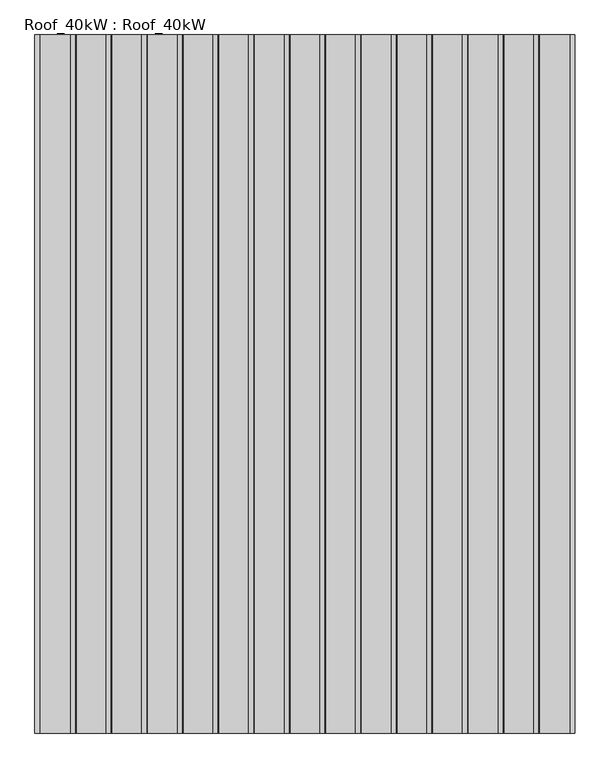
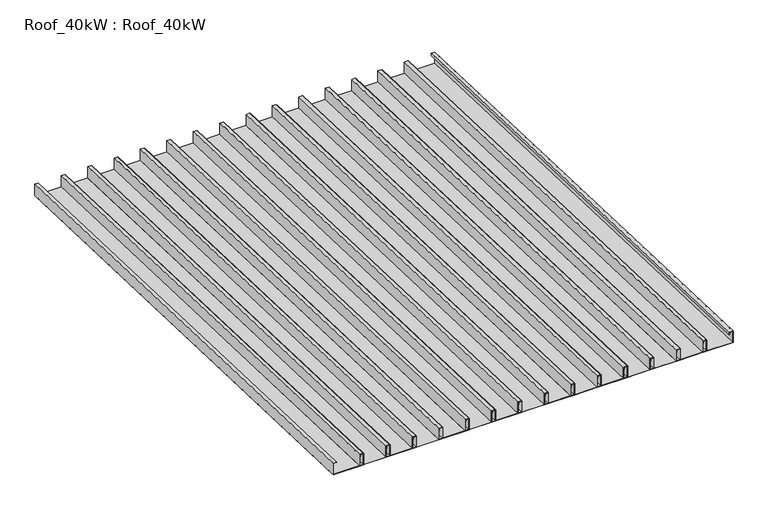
"""IFC4 building model written with IfcOpenShell, lengths in millimetres: beam geometry, Roof_40kW : Roof_40kW."""

from ifc_helpers import new_model, si_unit, origin, place, context, project, spatial, faceted_brep, source, transform, mapped, element, save


def roof_40kw_roof_40kw_301b227a(model_context):
    return source(origin(), model_context, "Body", "Brep", [
        faceted_brep([(-976.7135839, -12.227048, 3512.7230441), (-976.7135839, -12.227048, 3436.7693421), (-1178.0135838, -12.227048, 3436.7693421), (-1178.0135838, -12.227048, 3514.7218308), (-1157.0135757, -12.227048, 3514.7218308), (-1157.0135757, -12.227048, 3516.7206085), (-1180.0135889, -12.227048, 3516.7206085), (-1180.0135889, -12.227048, 3434.7705604), (-974.7135839, -12.227048, 3434.7705604), (-974.7135839, -12.227048, 3514.7218308), (-999.3135835, -12.227048, 3514.7218308), (-999.3135835, -12.227048, 3497.7321843), (-997.3135829, -12.227048, 3497.7321843), (-997.3135829, -12.227048, 3512.7230441), (-976.7135839, 3464.453761, 3391.3146758), (-997.3135829, 3464.453761, 3391.3146758), (-997.3135829, 3464.453761, 3376.3238198), (-999.3135835, 3464.453761, 3376.3238198), (-999.3135835, 3464.453761, 3393.3134574), (-974.7135786, 3464.453761, 3393.3134574), (-974.7135786, 3464.453761, 3313.3621913), (-1180.0135839, 3464.453761, 3313.3621913), (-1180.0135839, 3464.453761, 3395.312244), (-1157.0135839, 3464.453761, 3395.312244), (-1157.0135839, 3464.453761, 3393.3134574), (-1178.0135839, 3464.453761, 3393.3134574), (-1178.0135839, 3464.453761, 3315.3609776), (-976.7135839, 3464.453761, 3315.3609776)], [[[0, 1, 2, 3, 4, 5, 6, 7, 8, 9, 10, 11, 12, 13]], [[14, 15, 16, 17, 18, 19, 20, 21, 22, 23, 24, 25, 26, 27]], [[14, 27, 1, 0]], [[27, 26, 2, 1]], [[26, 25, 3, 2]], [[25, 24, 4, 3]], [[24, 23, 5, 4]], [[23, 22, 6, 5]], [[22, 21, 7, 6]], [[21, 20, 8, 7]], [[20, 19, 9, 8]], [[19, 18, 10, 9]], [[18, 17, 11, 10]], [[17, 16, 12, 11]], [[16, 15, 13, 12]], [[15, 14, 0, 13]]]),
        faceted_brep([(-1154.3303469, -12.227048, 3512.7230441), (-1154.3303469, -12.227048, 3436.7693421), (-1355.6303468, -12.227048, 3436.7693421), (-1355.6303468, -12.227048, 3514.7218308), (-1334.6303387, -12.227048, 3514.7218308), (-1334.6303387, -12.227048, 3516.7206085), (-1357.6303519, -12.227048, 3516.7206085), (-1357.6303519, -12.227048, 3434.7705604), (-1152.3303469, -12.227048, 3434.7705604), (-1152.3303469, -12.227048, 3514.7218308), (-1176.9303465, -12.227048, 3514.7218308), (-1176.9303465, -12.227048, 3497.7321843), (-1174.9303459, -12.227048, 3497.7321843), (-1174.9303459, -12.227048, 3512.7230441), (-1154.3303469, 3464.453761, 3391.3146758), (-1174.9303459, 3464.453761, 3391.3146758), (-1174.9303459, 3464.453761, 3376.3238198), (-1176.9303465, 3464.453761, 3376.3238198), (-1176.9303465, 3464.453761, 3393.3134574), (-1152.3303416, 3464.453761, 3393.3134574), (-1152.3303416, 3464.453761, 3313.3621913), (-1357.6303469, 3464.453761, 3313.3621913), (-1357.6303469, 3464.453761, 3395.312244), (-1334.6303469, 3464.453761, 3395.312244), (-1334.6303469, 3464.453761, 3393.3134574), (-1355.6303469, 3464.453761, 3393.3134574), (-1355.6303469, 3464.453761, 3315.3609776), (-1154.3303469, 3464.453761, 3315.3609776)], [[[0, 1, 2, 3, 4, 5, 6, 7, 8, 9, 10, 11, 12, 13]], [[14, 15, 16, 17, 18, 19, 20, 21, 22, 23, 24, 25, 26, 27]], [[14, 27, 1, 0]], [[27, 26, 2, 1]], [[26, 25, 3, 2]], [[25, 24, 4, 3]], [[24, 23, 5, 4]], [[23, 22, 6, 5]], [[22, 21, 7, 6]], [[21, 20, 8, 7]], [[20, 19, 9, 8]], [[19, 18, 10, 9]], [[18, 17, 11, 10]], [[17, 16, 12, 11]], [[16, 15, 13, 12]], [[15, 14, 0, 13]]]),
        faceted_brep([(-1331.9471099, -12.227048, 3512.7230441), (-1331.9471099, -12.227048, 3436.7693421), (-1533.2471098, -12.227048, 3436.7693421), (-1533.2471098, -12.227048, 3514.7218308), (-1512.2471017, -12.227048, 3514.7218308), (-1512.2471017, -12.227048, 3516.7206085), (-1535.2471149, -12.227048, 3516.7206085), (-1535.2471149, -12.227048, 3434.7705604), (-1329.9471099, -12.227048, 3434.7705604), (-1329.9471099, -12.227048, 3514.7218308), (-1354.5471095, -12.227048, 3514.7218308), (-1354.5471095, -12.227048, 3497.7321843), (-1352.5471089, -12.227048, 3497.7321843), (-1352.5471089, -12.227048, 3512.7230441), (-1331.9471099, 3464.453761, 3391.3146758), (-1352.5471089, 3464.453761, 3391.3146758), (-1352.5471089, 3464.453761, 3376.3238198), (-1354.5471095, 3464.453761, 3376.3238198), (-1354.5471095, 3464.453761, 3393.3134574), (-1329.9471046, 3464.453761, 3393.3134574), (-1329.9471046, 3464.453761, 3313.3621913), (-1535.2471099, 3464.453761, 3313.3621913), (-1535.2471099, 3464.453761, 3395.312244), (-1512.2471099, 3464.453761, 3395.312244), (-1512.2471099, 3464.453761, 3393.3134574), (-1533.2471099, 3464.453761, 3393.3134574), (-1533.2471099, 3464.453761, 3315.3609776), (-1331.9471099, 3464.453761, 3315.3609776)], [[[0, 1, 2, 3, 4, 5, 6, 7, 8, 9, 10, 11, 12, 13]], [[14, 15, 16, 17, 18, 19, 20, 21, 22, 23, 24, 25, 26, 27]], [[14, 27, 1, 0]], [[27, 26, 2, 1]], [[26, 25, 3, 2]], [[25, 24, 4, 3]], [[24, 23, 5, 4]], [[23, 22, 6, 5]], [[22, 21, 7, 6]], [[21, 20, 8, 7]], [[20, 19, 9, 8]], [[19, 18, 10, 9]], [[18, 17, 11, 10]], [[17, 16, 12, 11]], [[16, 15, 13, 12]], [[15, 14, 0, 13]]]),
        faceted_brep([(-1509.5638729, -12.227048, 3512.7230441), (-1509.5638729, -12.227048, 3436.7693421), (-1710.8638728, -12.227048, 3436.7693421), (-1710.8638728, -12.227048, 3514.7218308), (-1689.8638647, -12.227048, 3514.7218308), (-1689.8638647, -12.227048, 3516.7206085), (-1712.8638779, -12.227048, 3516.7206085), (-1712.8638779, -12.227048, 3434.7705604), (-1507.5638729, -12.227048, 3434.7705604), (-1507.5638729, -12.227048, 3514.7218308), (-1532.1638725, -12.227048, 3514.7218308), (-1532.1638725, -12.227048, 3497.7321843), (-1530.163872, -12.227048, 3497.7321843), (-1530.163872, -12.227048, 3512.7230441), (-1509.5638729, 3464.453761, 3391.3146758), (-1530.163872, 3464.453761, 3391.3146758), (-1530.163872, 3464.453761, 3376.3238198), (-1532.1638725, 3464.453761, 3376.3238198), (-1532.1638725, 3464.453761, 3393.3134574), (-1507.5638676, 3464.453761, 3393.3134574), (-1507.5638676, 3464.453761, 3313.3621913), (-1712.8638729, 3464.453761, 3313.3621913), (-1712.8638729, 3464.453761, 3395.312244), (-1689.8638729, 3464.453761, 3395.312244), (-1689.8638729, 3464.453761, 3393.3134574), (-1710.8638729, 3464.453761, 3393.3134574), (-1710.8638729, 3464.453761, 3315.3609776), (-1509.5638729, 3464.453761, 3315.3609776)], [[[0, 1, 2, 3, 4, 5, 6, 7, 8, 9, 10, 11, 12, 13]], [[14, 15, 16, 17, 18, 19, 20, 21, 22, 23, 24, 25, 26, 27]], [[14, 27, 1, 0]], [[27, 26, 2, 1]], [[26, 25, 3, 2]], [[25, 24, 4, 3]], [[24, 23, 5, 4]], [[23, 22, 6, 5]], [[22, 21, 7, 6]], [[21, 20, 8, 7]], [[20, 19, 9, 8]], [[19, 18, 10, 9]], [[18, 17, 11, 10]], [[17, 16, 12, 11]], [[16, 15, 13, 12]], [[15, 14, 0, 13]]]),
        faceted_brep([(-1687.1806359, -12.227048, 3512.7230441), (-1687.1806359, -12.227048, 3436.7693421), (-1888.4806358, -12.227048, 3436.7693421), (-1888.4806358, -12.227048, 3514.7218308), (-1867.4806277, -12.227048, 3514.7218308), (-1867.4806277, -12.227048, 3516.7206085), (-1890.4806409, -12.227048, 3516.7206085), (-1890.4806409, -12.227048, 3434.7705604), (-1685.1806359, -12.227048, 3434.7705604), (-1685.1806359, -12.227048, 3514.7218308), (-1709.7806355, -12.227048, 3514.7218308), (-1709.7806355, -12.227048, 3497.7321843), (-1707.780635, -12.227048, 3497.7321843), (-1707.780635, -12.227048, 3512.7230441), (-1687.1806359, 3464.453761, 3391.3146758), (-1707.780635, 3464.453761, 3391.3146758), (-1707.780635, 3464.453761, 3376.3238198), (-1709.7806355, 3464.453761, 3376.3238198), (-1709.7806355, 3464.453761, 3393.3134574), (-1685.1806306, 3464.453761, 3393.3134574), (-1685.1806306, 3464.453761, 3313.3621913), (-1890.4806359, 3464.453761, 3313.3621913), (-1890.4806359, 3464.453761, 3395.312244), (-1867.4806359, 3464.453761, 3395.312244), (-1867.4806359, 3464.453761, 3393.3134574), (-1888.4806359, 3464.453761, 3393.3134574), (-1888.4806359, 3464.453761, 3315.3609776), (-1687.1806359, 3464.453761, 3315.3609776)], [[[0, 1, 2, 3, 4, 5, 6, 7, 8, 9, 10, 11, 12, 13]], [[14, 15, 16, 17, 18, 19, 20, 21, 22, 23, 24, 25, 26, 27]], [[14, 27, 1, 0]], [[27, 26, 2, 1]], [[26, 25, 3, 2]], [[25, 24, 4, 3]], [[24, 23, 5, 4]], [[23, 22, 6, 5]], [[22, 21, 7, 6]], [[21, 20, 8, 7]], [[20, 19, 9, 8]], [[19, 18, 10, 9]], [[18, 17, 11, 10]], [[17, 16, 12, 11]], [[16, 15, 13, 12]], [[15, 14, 0, 13]]]),
        faceted_brep([(-1864.7973989, -12.227048, 3512.7230441), (-1864.7973989, -12.227048, 3436.7693421), (-2066.0973988, -12.227048, 3436.7693421), (-2066.0973988, -12.227048, 3514.7218308), (-2045.0973907, -12.227048, 3514.7218308), (-2045.0973907, -12.227048, 3516.7206085), (-2068.097404, -12.227048, 3516.7206085), (-2068.097404, -12.227048, 3434.7705604), (-1862.7973989, -12.227048, 3434.7705604), (-1862.7973989, -12.227048, 3514.7218308), (-1887.3973985, -12.227048, 3514.7218308), (-1887.3973985, -12.227048, 3497.7321843), (-1885.397398, -12.227048, 3497.7321843), (-1885.397398, -12.227048, 3512.7230441), (-1864.7973989, 3464.453761, 3391.3146758), (-1885.397398, 3464.453761, 3391.3146758), (-1885.397398, 3464.453761, 3376.3238198), (-1887.3973985, 3464.453761, 3376.3238198), (-1887.3973985, 3464.453761, 3393.3134574), (-1862.7973937, 3464.453761, 3393.3134574), (-1862.7973937, 3464.453761, 3313.3621913), (-2068.0973989, 3464.453761, 3313.3621913), (-2068.0973989, 3464.453761, 3395.312244), (-2045.0973989, 3464.453761, 3395.312244), (-2045.0973989, 3464.453761, 3393.3134574), (-2066.0973989, 3464.453761, 3393.3134574), (-2066.0973989, 3464.453761, 3315.3609776), (-1864.7973989, 3464.453761, 3315.3609776)], [[[0, 1, 2, 3, 4, 5, 6, 7, 8, 9, 10, 11, 12, 13]], [[14, 15, 16, 17, 18, 19, 20, 21, 22, 23, 24, 25, 26, 27]], [[14, 27, 1, 0]], [[27, 26, 2, 1]], [[26, 25, 3, 2]], [[25, 24, 4, 3]], [[24, 23, 5, 4]], [[23, 22, 6, 5]], [[22, 21, 7, 6]], [[21, 20, 8, 7]], [[20, 19, 9, 8]], [[19, 18, 10, 9]], [[18, 17, 11, 10]], [[17, 16, 12, 11]], [[16, 15, 13, 12]], [[15, 14, 0, 13]]]),
        faceted_brep([(-2042.4141619, -12.227048, 3512.7230441), (-2042.4141619, -12.227048, 3436.7693421), (-2243.7141619, -12.227048, 3436.7693421), (-2243.7141619, -12.227048, 3514.7218308), (-2222.7141537, -12.227048, 3514.7218308), (-2222.7141537, -12.227048, 3516.7206085), (-2245.714167, -12.227048, 3516.7206085), (-2245.714167, -12.227048, 3434.7705604), (-2040.4141619, -12.227048, 3434.7705604), (-2040.4141619, -12.227048, 3514.7218308), (-2065.0141615, -12.227048, 3514.7218308), (-2065.0141615, -12.227048, 3497.7321843), (-2063.014161, -12.227048, 3497.7321843), (-2063.014161, -12.227048, 3512.7230441), (-2042.4141619, 3464.453761, 3391.3146758), (-2063.014161, 3464.453761, 3391.3146758), (-2063.014161, 3464.453761, 3376.3238198), (-2065.0141615, 3464.453761, 3376.3238198), (-2065.0141615, 3464.453761, 3393.3134574), (-2040.4141567, 3464.453761, 3393.3134574), (-2040.4141567, 3464.453761, 3313.3621913), (-2245.7141619, 3464.453761, 3313.3621913), (-2245.7141619, 3464.453761, 3395.312244), (-2222.7141619, 3464.453761, 3395.312244), (-2222.7141619, 3464.453761, 3393.3134574), (-2243.7141619, 3464.453761, 3393.3134574), (-2243.7141619, 3464.453761, 3315.3609776), (-2042.4141619, 3464.453761, 3315.3609776)], [[[0, 1, 2, 3, 4, 5, 6, 7, 8, 9, 10, 11, 12, 13]], [[14, 15, 16, 17, 18, 19, 20, 21, 22, 23, 24, 25, 26, 27]], [[14, 27, 1, 0]], [[27, 26, 2, 1]], [[26, 25, 3, 2]], [[25, 24, 4, 3]], [[24, 23, 5, 4]], [[23, 22, 6, 5]], [[22, 21, 7, 6]], [[21, 20, 8, 7]], [[20, 19, 9, 8]], [[19, 18, 10, 9]], [[18, 17, 11, 10]], [[17, 16, 12, 11]], [[16, 15, 13, 12]], [[15, 14, 0, 13]]]),
        faceted_brep([(-2220.0309249, -12.227048, 3512.7230441), (-2220.0309249, -12.227048, 3436.7693421), (-2421.3309249, -12.227048, 3436.7693421), (-2421.3309249, -12.227048, 3514.7218308), (-2400.3309167, -12.227048, 3514.7218308), (-2400.3309167, -12.227048, 3516.7206085), (-2423.33093, -12.227048, 3516.7206085), (-2423.33093, -12.227048, 3434.7705604), (-2218.0309249, -12.227048, 3434.7705604), (-2218.0309249, -12.227048, 3514.7218308), (-2242.6309245, -12.227048, 3514.7218308), (-2242.6309245, -12.227048, 3497.7321843), (-2240.630924, -12.227048, 3497.7321843), (-2240.630924, -12.227048, 3512.7230441), (-2220.0309249, 3464.453761, 3391.3146758), (-2240.630924, 3464.453761, 3391.3146758), (-2240.630924, 3464.453761, 3376.3238198), (-2242.6309245, 3464.453761, 3376.3238198), (-2242.6309245, 3464.453761, 3393.3134574), (-2218.0309197, 3464.453761, 3393.3134574), (-2218.0309197, 3464.453761, 3313.3621913), (-2423.3309249, 3464.453761, 3313.3621913), (-2423.3309249, 3464.453761, 3395.312244), (-2400.3309249, 3464.453761, 3395.312244), (-2400.3309249, 3464.453761, 3393.3134574), (-2421.3309249, 3464.453761, 3393.3134574), (-2421.3309249, 3464.453761, 3315.3609776), (-2220.0309249, 3464.453761, 3315.3609776)], [[[0, 1, 2, 3, 4, 5, 6, 7, 8, 9, 10, 11, 12, 13]], [[14, 15, 16, 17, 18, 19, 20, 21, 22, 23, 24, 25, 26, 27]], [[14, 27, 1, 0]], [[27, 26, 2, 1]], [[26, 25, 3, 2]], [[25, 24, 4, 3]], [[24, 23, 5, 4]], [[23, 22, 6, 5]], [[22, 21, 7, 6]], [[21, 20, 8, 7]], [[20, 19, 9, 8]], [[19, 18, 10, 9]], [[18, 17, 11, 10]], [[17, 16, 12, 11]], [[16, 15, 13, 12]], [[15, 14, 0, 13]]]),
        faceted_brep([(-2397.6476879, -12.227048, 3512.7230441), (-2397.6476879, -12.227048, 3436.7693421), (-2598.9476879, -12.227048, 3436.7693421), (-2598.9476879, -12.227048, 3514.7218308), (-2577.9476797, -12.227048, 3514.7218308), (-2577.9476797, -12.227048, 3516.7206085), (-2600.947693, -12.227048, 3516.7206085), (-2600.947693, -12.227048, 3434.7705604), (-2395.6476879, -12.227048, 3434.7705604), (-2395.6476879, -12.227048, 3514.7218308), (-2420.2476875, -12.227048, 3514.7218308), (-2420.2476875, -12.227048, 3497.7321843), (-2418.247687, -12.227048, 3497.7321843), (-2418.247687, -12.227048, 3512.7230441), (-2397.6476879, 3464.453761, 3391.3146758), (-2418.247687, 3464.453761, 3391.3146758), (-2418.247687, 3464.453761, 3376.3238198), (-2420.2476875, 3464.453761, 3376.3238198), (-2420.2476875, 3464.453761, 3393.3134574), (-2395.6476827, 3464.453761, 3393.3134574), (-2395.6476827, 3464.453761, 3313.3621913), (-2600.9476879, 3464.453761, 3313.3621913), (-2600.9476879, 3464.453761, 3395.312244), (-2577.9476879, 3464.453761, 3395.312244), (-2577.9476879, 3464.453761, 3393.3134574), (-2598.9476879, 3464.453761, 3393.3134574), (-2598.9476879, 3464.453761, 3315.3609776), (-2397.6476879, 3464.453761, 3315.3609776)], [[[0, 1, 2, 3, 4, 5, 6, 7, 8, 9, 10, 11, 12, 13]], [[14, 15, 16, 17, 18, 19, 20, 21, 22, 23, 24, 25, 26, 27]], [[14, 27, 1, 0]], [[27, 26, 2, 1]], [[26, 25, 3, 2]], [[25, 24, 4, 3]], [[24, 23, 5, 4]], [[23, 22, 6, 5]], [[22, 21, 7, 6]], [[21, 20, 8, 7]], [[20, 19, 9, 8]], [[19, 18, 10, 9]], [[18, 17, 11, 10]], [[17, 16, 12, 11]], [[16, 15, 13, 12]], [[15, 14, 0, 13]]]),
        faceted_brep([(-2575.2644509, -12.227048, 3512.7230441), (-2575.2644509, -12.227048, 3436.7693421), (-2776.5644509, -12.227048, 3436.7693421), (-2776.5644509, -12.227048, 3514.7218308), (-2755.5644427, -12.227048, 3514.7218308), (-2755.5644427, -12.227048, 3516.7206085), (-2778.564456, -12.227048, 3516.7206085), (-2778.564456, -12.227048, 3434.7705604), (-2573.2644509, -12.227048, 3434.7705604), (-2573.2644509, -12.227048, 3514.7218308), (-2597.8644505, -12.227048, 3514.7218308), (-2597.8644505, -12.227048, 3497.7321843), (-2595.86445, -12.227048, 3497.7321843), (-2595.86445, -12.227048, 3512.7230441), (-2575.2644509, 3464.453761, 3391.3146758), (-2595.86445, 3464.453761, 3391.3146758), (-2595.86445, 3464.453761, 3376.3238198), (-2597.8644505, 3464.453761, 3376.3238198), (-2597.8644505, 3464.453761, 3393.3134574), (-2573.2644457, 3464.453761, 3393.3134574), (-2573.2644457, 3464.453761, 3313.3621913), (-2778.5644509, 3464.453761, 3313.3621913), (-2778.5644509, 3464.453761, 3395.312244), (-2755.5644509, 3464.453761, 3395.312244), (-2755.5644509, 3464.453761, 3393.3134574), (-2776.5644509, 3464.453761, 3393.3134574), (-2776.5644509, 3464.453761, 3315.3609776), (-2575.2644509, 3464.453761, 3315.3609776)], [[[0, 1, 2, 3, 4, 5, 6, 7, 8, 9, 10, 11, 12, 13]], [[14, 15, 16, 17, 18, 19, 20, 21, 22, 23, 24, 25, 26, 27]], [[14, 27, 1, 0]], [[27, 26, 2, 1]], [[26, 25, 3, 2]], [[25, 24, 4, 3]], [[24, 23, 5, 4]], [[23, 22, 6, 5]], [[22, 21, 7, 6]], [[21, 20, 8, 7]], [[20, 19, 9, 8]], [[19, 18, 10, 9]], [[18, 17, 11, 10]], [[17, 16, 12, 11]], [[16, 15, 13, 12]], [[15, 14, 0, 13]]]),
        faceted_brep([(-2752.8812139, -12.227048, 3512.7230441), (-2752.8812139, -12.227048, 3436.7693421), (-2954.1812139, -12.227048, 3436.7693421), (-2954.1812139, -12.227048, 3514.7218308), (-2933.1812057, -12.227048, 3514.7218308), (-2933.1812057, -12.227048, 3516.7206085), (-2956.181219, -12.227048, 3516.7206085), (-2956.181219, -12.227048, 3434.7705604), (-2750.8812139, -12.227048, 3434.7705604), (-2750.8812139, -12.227048, 3514.7218308), (-2775.4812135, -12.227048, 3514.7218308), (-2775.4812135, -12.227048, 3497.7321843), (-2773.481213, -12.227048, 3497.7321843), (-2773.481213, -12.227048, 3512.7230441), (-2752.8812139, 3464.453761, 3391.3146758), (-2773.481213, 3464.453761, 3391.3146758), (-2773.481213, 3464.453761, 3376.3238198), (-2775.4812135, 3464.453761, 3376.3238198), (-2775.4812135, 3464.453761, 3393.3134574), (-2750.8812087, 3464.453761, 3393.3134574), (-2750.8812087, 3464.453761, 3313.3621913), (-2956.1812139, 3464.453761, 3313.3621913), (-2956.1812139, 3464.453761, 3395.312244), (-2933.1812139, 3464.453761, 3395.312244), (-2933.1812139, 3464.453761, 3393.3134574), (-2954.1812139, 3464.453761, 3393.3134574), (-2954.1812139, 3464.453761, 3315.3609776), (-2752.8812139, 3464.453761, 3315.3609776)], [[[0, 1, 2, 3, 4, 5, 6, 7, 8, 9, 10, 11, 12, 13]], [[14, 15, 16, 17, 18, 19, 20, 21, 22, 23, 24, 25, 26, 27]], [[14, 27, 1, 0]], [[27, 26, 2, 1]], [[26, 25, 3, 2]], [[25, 24, 4, 3]], [[24, 23, 5, 4]], [[23, 22, 6, 5]], [[22, 21, 7, 6]], [[21, 20, 8, 7]], [[20, 19, 9, 8]], [[19, 18, 10, 9]], [[18, 17, 11, 10]], [[17, 16, 12, 11]], [[16, 15, 13, 12]], [[15, 14, 0, 13]]]),
        faceted_brep([(-2930.4979769, -12.227048, 3512.7230441), (-2930.4979769, -12.227048, 3436.7693421), (-3131.7979769, -12.227048, 3436.7693421), (-3131.7979769, -12.227048, 3514.7218308), (-3110.7979687, -12.227048, 3514.7218308), (-3110.7979687, -12.227048, 3516.7206085), (-3133.797982, -12.227048, 3516.7206085), (-3133.797982, -12.227048, 3434.7705604), (-2928.4979769, -12.227048, 3434.7705604), (-2928.4979769, -12.227048, 3514.7218308), (-2953.0979765, -12.227048, 3514.7218308), (-2953.0979765, -12.227048, 3497.7321843), (-2951.097976, -12.227048, 3497.7321843), (-2951.097976, -12.227048, 3512.7230441), (-2930.4979769, 3464.453761, 3391.3146758), (-2951.097976, 3464.453761, 3391.3146758), (-2951.097976, 3464.453761, 3376.3238198), (-2953.0979765, 3464.453761, 3376.3238198), (-2953.0979765, 3464.453761, 3393.3134574), (-2928.4979717, 3464.453761, 3393.3134574), (-2928.4979717, 3464.453761, 3313.3621913), (-3133.7979769, 3464.453761, 3313.3621913), (-3133.7979769, 3464.453761, 3395.312244), (-3110.7979769, 3464.453761, 3395.312244), (-3110.7979769, 3464.453761, 3393.3134574), (-3131.7979769, 3464.453761, 3393.3134574), (-3131.7979769, 3464.453761, 3315.3609776), (-2930.4979769, 3464.453761, 3315.3609776)], [[[0, 1, 2, 3, 4, 5, 6, 7, 8, 9, 10, 11, 12, 13]], [[14, 15, 16, 17, 18, 19, 20, 21, 22, 23, 24, 25, 26, 27]], [[14, 27, 1, 0]], [[27, 26, 2, 1]], [[26, 25, 3, 2]], [[25, 24, 4, 3]], [[24, 23, 5, 4]], [[23, 22, 6, 5]], [[22, 21, 7, 6]], [[21, 20, 8, 7]], [[20, 19, 9, 8]], [[19, 18, 10, 9]], [[18, 17, 11, 10]], [[17, 16, 12, 11]], [[16, 15, 13, 12]], [[15, 14, 0, 13]]]),
        faceted_brep([(-3108.1147399, -12.227048, 3512.7230441), (-3108.1147399, -12.227048, 3436.7693421), (-3309.4147399, -12.227048, 3436.7693421), (-3309.4147399, -12.227048, 3514.7218308), (-3288.4147317, -12.227048, 3514.7218308), (-3288.4147317, -12.227048, 3516.7206085), (-3311.414745, -12.227048, 3516.7206085), (-3311.414745, -12.227048, 3434.7705604), (-3106.1147399, -12.227048, 3434.7705604), (-3106.1147399, -12.227048, 3514.7218308), (-3130.7147395, -12.227048, 3514.7218308), (-3130.7147395, -12.227048, 3497.7321843), (-3128.714739, -12.227048, 3497.7321843), (-3128.714739, -12.227048, 3512.7230441), (-3108.1147399, 3464.453761, 3391.3146758), (-3128.714739, 3464.453761, 3391.3146758), (-3128.714739, 3464.453761, 3376.3238198), (-3130.7147395, 3464.453761, 3376.3238198), (-3130.7147395, 3464.453761, 3393.3134574), (-3106.1147347, 3464.453761, 3393.3134574), (-3106.1147347, 3464.453761, 3313.3621913), (-3311.4147399, 3464.453761, 3313.3621913), (-3311.4147399, 3464.453761, 3395.312244), (-3288.4147399, 3464.453761, 3395.312244), (-3288.4147399, 3464.453761, 3393.3134574), (-3309.4147399, 3464.453761, 3393.3134574), (-3309.4147399, 3464.453761, 3315.3609776), (-3108.1147399, 3464.453761, 3315.3609776)], [[[0, 1, 2, 3, 4, 5, 6, 7, 8, 9, 10, 11, 12, 13]], [[14, 15, 16, 17, 18, 19, 20, 21, 22, 23, 24, 25, 26, 27]], [[14, 27, 1, 0]], [[27, 26, 2, 1]], [[26, 25, 3, 2]], [[25, 24, 4, 3]], [[24, 23, 5, 4]], [[23, 22, 6, 5]], [[22, 21, 7, 6]], [[21, 20, 8, 7]], [[20, 19, 9, 8]], [[19, 18, 10, 9]], [[18, 17, 11, 10]], [[17, 16, 12, 11]], [[16, 15, 13, 12]], [[15, 14, 0, 13]]]),
        faceted_brep([(-3285.7315029, -12.227048, 3512.7230441), (-3285.7315029, -12.227048, 3436.7693421), (-3487.0315029, -12.227048, 3436.7693421), (-3487.0315029, -12.227048, 3514.7218308), (-3466.0314947, -12.227048, 3514.7218308), (-3466.0314947, -12.227048, 3516.7206085), (-3489.031508, -12.227048, 3516.7206085), (-3489.031508, -12.227048, 3434.7705604), (-3283.7315029, -12.227048, 3434.7705604), (-3283.7315029, -12.227048, 3514.7218308), (-3308.3315026, -12.227048, 3514.7218308), (-3308.3315026, -12.227048, 3497.7321843), (-3306.331502, -12.227048, 3497.7321843), (-3306.331502, -12.227048, 3512.7230441), (-3285.7315029, 3464.453761, 3391.3146758), (-3306.331502, 3464.453761, 3391.3146758), (-3306.331502, 3464.453761, 3376.3238198), (-3308.3315026, 3464.453761, 3376.3238198), (-3308.3315026, 3464.453761, 3393.3134574), (-3283.7314977, 3464.453761, 3393.3134574), (-3283.7314977, 3464.453761, 3313.3621913), (-3489.0315029, 3464.453761, 3313.3621913), (-3489.0315029, 3464.453761, 3395.312244), (-3466.0315029, 3464.453761, 3395.312244), (-3466.0315029, 3464.453761, 3393.3134574), (-3487.0315029, 3464.453761, 3393.3134574), (-3487.0315029, 3464.453761, 3315.3609776), (-3285.7315029, 3464.453761, 3315.3609776)], [[[0, 1, 2, 3, 4, 5, 6, 7, 8, 9, 10, 11, 12, 13]], [[14, 15, 16, 17, 18, 19, 20, 21, 22, 23, 24, 25, 26, 27]], [[14, 27, 1, 0]], [[27, 26, 2, 1]], [[26, 25, 3, 2]], [[25, 24, 4, 3]], [[24, 23, 5, 4]], [[23, 22, 6, 5]], [[22, 21, 7, 6]], [[21, 20, 8, 7]], [[20, 19, 9, 8]], [[19, 18, 10, 9]], [[18, 17, 11, 10]], [[17, 16, 12, 11]], [[16, 15, 13, 12]], [[15, 14, 0, 13]]]),
        faceted_brep([(-3463.3482659, -12.227048, 3512.7230441), (-3463.3482659, -12.227048, 3436.7693421), (-3664.6482659, -12.227048, 3436.7693421), (-3664.6482659, -12.227048, 3514.7218308), (-3643.6482577, -12.227048, 3514.7218308), (-3643.6482577, -12.227048, 3516.7206085), (-3666.648271, -12.227048, 3516.7206085), (-3666.648271, -12.227048, 3434.7705604), (-3461.3482659, -12.227048, 3434.7705604), (-3461.3482659, -12.227048, 3514.7218308), (-3485.9482656, -12.227048, 3514.7218308), (-3485.9482656, -12.227048, 3497.7321843), (-3483.948265, -12.227048, 3497.7321843), (-3483.948265, -12.227048, 3512.7230441), (-3463.3482659, 3464.453761, 3391.3146758), (-3483.948265, 3464.453761, 3391.3146758), (-3483.948265, 3464.453761, 3376.3238198), (-3485.9482656, 3464.453761, 3376.3238198), (-3485.9482656, 3464.453761, 3393.3134574), (-3461.3482607, 3464.453761, 3393.3134574), (-3461.3482607, 3464.453761, 3313.3621913), (-3666.6482659, 3464.453761, 3313.3621913), (-3666.6482659, 3464.453761, 3395.312244), (-3643.6482659, 3464.453761, 3395.312244), (-3643.6482659, 3464.453761, 3393.3134574), (-3664.6482659, 3464.453761, 3393.3134574), (-3664.6482659, 3464.453761, 3315.3609776), (-3463.3482659, 3464.453761, 3315.3609776)], [[[0, 1, 2, 3, 4, 5, 6, 7, 8, 9, 10, 11, 12, 13]], [[14, 15, 16, 17, 18, 19, 20, 21, 22, 23, 24, 25, 26, 27]], [[14, 27, 1, 0]], [[27, 26, 2, 1]], [[26, 25, 3, 2]], [[25, 24, 4, 3]], [[24, 23, 5, 4]], [[23, 22, 6, 5]], [[22, 21, 7, 6]], [[21, 20, 8, 7]], [[20, 19, 9, 8]], [[19, 18, 10, 9]], [[18, 17, 11, 10]], [[17, 16, 12, 11]], [[16, 15, 13, 12]], [[15, 14, 0, 13]]]),
    ])


if __name__ == "__main__":
    model = new_model("IFC4")
    model_context = context("Model", 3, world=origin())
    ifc_project = project(units=[si_unit("LENGTHUNIT", "METRE", prefix="MILLI")], contexts=[model_context])
    site = spatial("IfcSite", under=ifc_project)
    building = spatial("IfcBuilding", under=site)
    placement = place(None, origin())
    roof_40kw_roof_40kw_shape = roof_40kw_roof_40kw_301b227a(model_context)
    element("IfcBeam", 1, ObjectType="Roof_40kW : Roof_40kW", at=placement, inside=building, context=model_context, shape_type="MappedRepresentation", body=[
        mapped(roof_40kw_roof_40kw_shape, transform((0.0, 0.0, 0.0), x_axis=(1.0, 0.0, 0.0), y_axis=(0.0, 1.0, 0.0), z_axis=(0.0, 0.0, 1.0))),
    ])
    save(model, "model.ifc")
